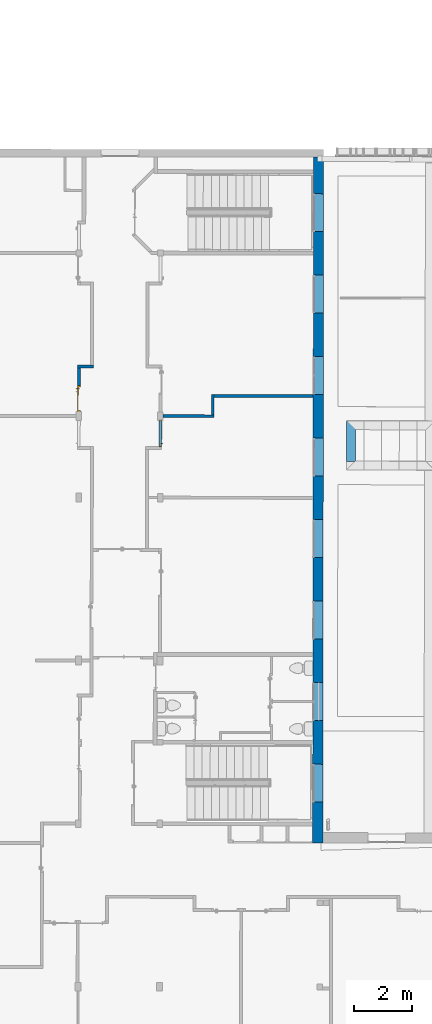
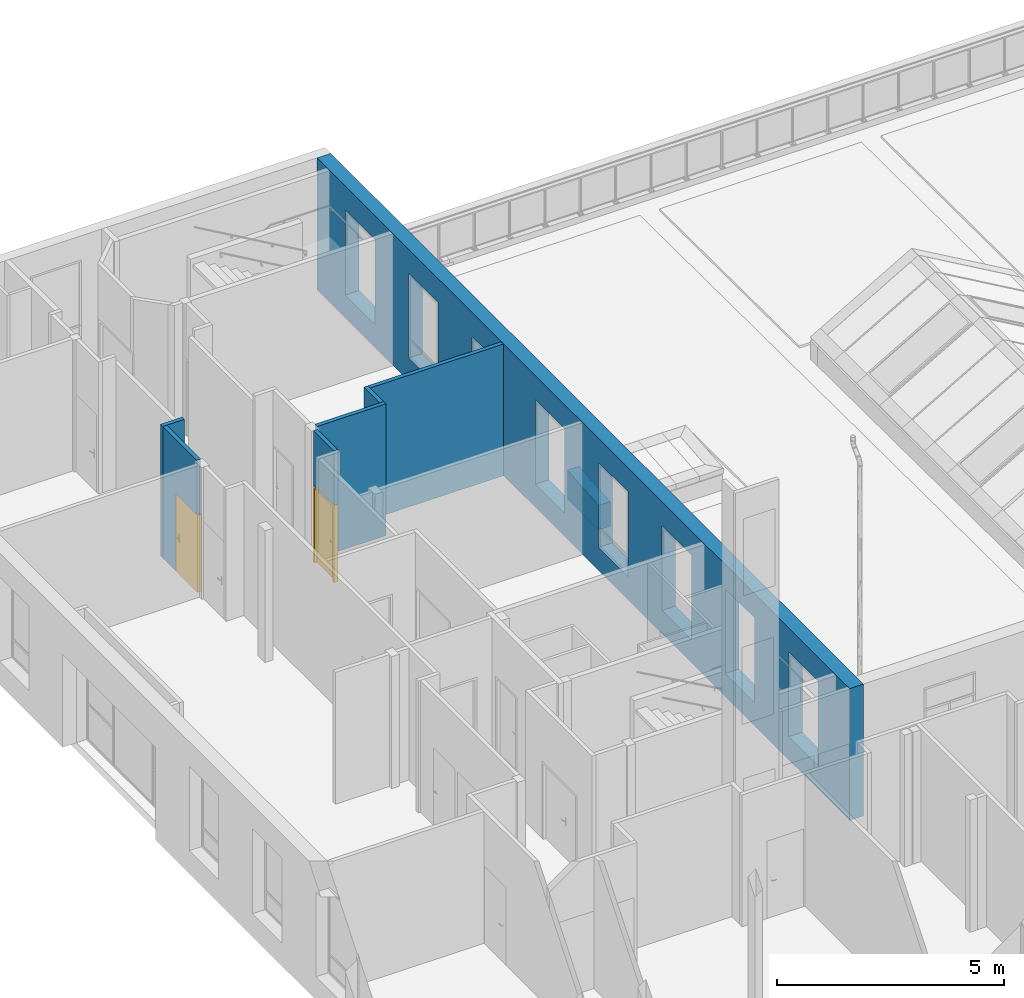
# One storey, part 64 of 101: 8 walls, 2 doors, 11 openings.
"""IFC2X3 building model written with IfcOpenShell, lengths in metres."""

from ifc_helpers import new_model, entity, si_unit, converted_unit, derived_unit, direction, frame, frame_2d, origin, place, context, subcontext, project, spatial, rectangle, extrude, clip, halfspace, faceted_brep, source, transform, mapped, material, material_list, layer, layer_set, layer_usage, type_object, type_shapes, element, fill, save


model = new_model("IFC2X3")

# Units and contexts
model_context = context("Model", 3, precision=1e-05, world=origin(), true_north=direction((6.123233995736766e-17, 1.0)))
body_context = subcontext(model_context, "Body", "Model", "MODEL_VIEW")
ifc_project = project(units=[si_unit("LENGTHUNIT", "METRE"), si_unit("AREAUNIT", "SQUARE_METRE"), converted_unit("PLANEANGLEUNIT", "DEGREE", entity("IfcPlaneAngleMeasure", 0.017453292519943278), si_unit("PLANEANGLEUNIT", "RADIAN"), dimensions=[0, 0, 0, 0, 0, 0, 0]), derived_unit("THERMALTRANSMITTANCEUNIT", [(si_unit("MASSUNIT", "GRAM", prefix="KILO"), 1), (si_unit("THERMODYNAMICTEMPERATUREUNIT", "KELVIN"), -1), (si_unit("TIMEUNIT", "SECOND"), -3)])], contexts=[model_context])

# Site, building, storey
site_placement = place(None, frame((1253.6752467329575, 2072.143113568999, 91.49999999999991), z_axis=(0.0, 0.0, 1.0), x_axis=(0.7237211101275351, 0.6900925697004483, 0.0)))
site = spatial("IfcSite", under=ifc_project, at=site_placement, Name="Surface", CompositionType="ELEMENT")
building_placement = place(site_placement, origin())
building = spatial("IfcBuilding", under=site, at=building_placement, CompositionType="ELEMENT")
storey_placement = place(building_placement, origin())
storey = spatial("IfcBuildingStorey", under=building, at=storey_placement, Name="0- Rdc", CompositionType="ELEMENT", Elevation=-5.764692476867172e-13)

# Wall, openings
ifc_material_1 = material(Name="OMD_Béton blanc")
ifc_layer_1 = layer(ifc_material_1, 0.35)
ifc_layer_set_1 = layer_set([ifc_layer_1], Name="Mur de base:MUR 35")
ifc_layer_usage_1 = layer_usage(ifc_layer_set_1, "AXIS2", "NEGATIVE", 0.175)
wall_type_1 = type_object("IfcWallType", Name="Mur de base:MUR 35", PredefinedType="STANDARD", material=ifc_layer_set_1)
wall_1_placement = place(storey_placement, frame((175.98297717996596, 17.99231955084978, 0.0), z_axis=(0.0, 0.0, 1.0), x_axis=(-0.6909838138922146, -0.7228702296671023, 0.0)))
wall_1 = element("IfcWallStandardCase", 1, at=wall_1_placement, inside=storey, type_object=wall_type_1, material=ifc_layer_usage_1, Name="Mur de base:MUR 35", ObjectType="Mur de base:MUR 35", context=body_context, shape_type="SweptSolid", body=[
    extrude(rectangle(XDim=23.55314000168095, YDim=0.35000000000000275, at=frame_2d((11.776570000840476, -7.077671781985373e-16), x_axis=(-1.0, 0.0))), origin(), (0.0, 0.0, 1.0), 3.5499999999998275),
])
opening_1_placement = place(wall_1_placement, frame((19.67990302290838, -0.014760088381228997, 0.6200000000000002)))
element("IfcOpeningElement", 2, at=opening_1_placement, cuts=wall_1, Name="Mur de base:MUR 35", ObjectType="Opening", context=body_context, shape_type="SweptSolid", body=[
    extrude(rectangle(XDim=2.2799999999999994, YDim=0.6496959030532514, at=frame_2d((0.0, -1.1102230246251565e-16), x_axis=(0.0, 1.0))), frame((-0.6519150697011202, -0.31263991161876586, 1.14), z_axis=(0.0, 1.0, 0.0), x_axis=(-1.0, 0.0, 0.0)), (0.0, 0.0, 1.0), 0.6547999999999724),
])
opening_2_placement = place(wall_1_placement, frame((19.030207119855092, -0.014760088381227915, 0.6200000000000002)))
element("IfcOpeningElement", 3, at=opening_2_placement, cuts=wall_1, Name="Mur de base:MUR 35", ObjectType="Opening", context=body_context, shape_type="SweptSolid", body=[
    extrude(rectangle(XDim=2.2799999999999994, YDim=0.6500000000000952, at=frame_2d((-1.1102230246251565e-16, -1.8207657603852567e-14), x_axis=(1.0, 0.0))), frame((-0.6520671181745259, -0.31263991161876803, 1.14), z_axis=(0.0, 1.0, 0.0), x_axis=(0.0, 0.0, 1.0)), (0.0, 0.0, 1.0), 0.6547999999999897),
])
opening_3_placement = place(wall_1_placement, frame((2.883866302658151, -0.014760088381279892, 0.6200000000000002)))
element("IfcOpeningElement", 4, at=opening_3_placement, cuts=wall_1, Name="Mur de base:MUR 35", ObjectType="Opening", context=body_context, shape_type="SweptSolid", body=[
    extrude(rectangle(XDim=2.2799999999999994, YDim=1.2996959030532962, at=frame_2d((0.0, -1.1102230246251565e-16), x_axis=(0.0, 1.0))), frame((-0.9769150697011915, -0.31263991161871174, 1.14), z_axis=(0.0, 1.0, 0.0), x_axis=(-1.0, 0.0, 0.0)), (0.0, 0.0, 1.0), 0.6547999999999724),
])
opening_4_placement = place(wall_1_placement, frame((5.679903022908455, -0.014760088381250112, 0.6200000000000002)))
element("IfcOpeningElement", 5, at=opening_4_placement, cuts=wall_1, Name="Mur de base:MUR 35", ObjectType="Opening", context=body_context, shape_type="SweptSolid", body=[
    extrude(rectangle(XDim=2.2799999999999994, YDim=1.299695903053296, at=frame_2d((1.5543122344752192e-15, -1.1102230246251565e-16), x_axis=(0.0, 1.0))), frame((-0.9769150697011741, -0.3126399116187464, 1.14), z_axis=(0.0, 1.0, 0.0), x_axis=(-1.0, 0.0, 0.0)), (0.0, 0.0, 1.0), 0.6547999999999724),
])
opening_5_placement = place(wall_1_placement, frame((8.479903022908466, -0.01476008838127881, 0.6200000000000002)))
element("IfcOpeningElement", 6, at=opening_5_placement, cuts=wall_1, Name="Mur de base:MUR 35", ObjectType="Opening", context=body_context, shape_type="SweptSolid", body=[
    extrude(rectangle(XDim=2.2799999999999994, YDim=1.2996959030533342, at=frame_2d((1.892930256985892e-14, -1.1102230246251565e-16), x_axis=(0.0, 1.0))), frame((-0.9769150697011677, -0.31263991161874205, 1.14), z_axis=(0.0, 1.0, 0.0), x_axis=(-1.0, 0.0, 0.0)), (0.0, 0.0, 1.0), 0.6547999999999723),
])
opening_6_placement = place(wall_1_placement, frame((11.279903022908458, -0.014760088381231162, 0.6200000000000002)))
element("IfcOpeningElement", 7, at=opening_6_placement, cuts=wall_1, Name="Mur de base:MUR 35", ObjectType="Opening", context=body_context, shape_type="SweptSolid", body=[
    extrude(rectangle(XDim=2.2799999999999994, YDim=1.2996959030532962, at=frame_2d((0.0, -1.1102230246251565e-16), x_axis=(0.0, 1.0))), frame((-0.9769150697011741, -0.3126399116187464, 1.14), z_axis=(0.0, 1.0, 0.0), x_axis=(-1.0, 0.0, 0.0)), (0.0, 0.0, 1.0), 0.6547999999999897),
])
opening_7_placement = place(wall_1_placement, frame((14.079903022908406, -0.0147600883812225, 0.6200000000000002)))
element("IfcOpeningElement", 8, at=opening_7_placement, cuts=wall_1, Name="Mur de base:MUR 35", ObjectType="Opening", context=body_context, shape_type="SweptSolid", body=[
    extrude(rectangle(XDim=2.2799999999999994, YDim=1.2996959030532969, at=frame_2d((3.885780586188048e-16, -1.1102230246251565e-16), x_axis=(0.0, 1.0))), frame((-0.9769150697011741, -0.3126399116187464, 1.14), z_axis=(0.0, 1.0, 0.0), x_axis=(-1.0, 0.0, 0.0)), (0.0, 0.0, 1.0), 0.6547999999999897),
])
opening_8_placement = place(wall_1_placement, frame((16.87990302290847, -0.014760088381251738, 0.6200000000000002)))
element("IfcOpeningElement", 9, at=opening_8_placement, cuts=wall_1, Name="Mur de base:MUR 35", ObjectType="Opening", context=body_context, shape_type="SweptSolid", body=[
    extrude(rectangle(XDim=2.2799999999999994, YDim=1.2996959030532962, at=frame_2d((0.0, -1.1102230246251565e-16), x_axis=(0.0, 1.0))), frame((-0.9769150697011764, -0.31263991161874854, 1.14), z_axis=(0.0, 1.0, 0.0), x_axis=(-1.0, 0.0, 0.0)), (0.0, 0.0, 1.0), 0.6547999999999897),
])
opening_9_placement = place(wall_1_placement, frame((22.479903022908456, -0.014760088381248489, 0.6200000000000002)))
element("IfcOpeningElement", 10, at=opening_9_placement, cuts=wall_1, Name="Mur de base:MUR 35", ObjectType="Opening", context=body_context, shape_type="SweptSolid", body=[
    extrude(rectangle(XDim=2.2799999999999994, YDim=1.2996959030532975, at=frame_2d((0.0, -1.1102230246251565e-16), x_axis=(0.0, 1.0))), frame((-0.9769150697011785, -0.3126399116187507, 1.14), z_axis=(0.0, 1.0, 0.0), x_axis=(-1.0, 0.0, 0.0)), (0.0, 0.0, 1.0), 0.6547999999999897),
])

# Wall, opening, door
ifc_layer_2 = layer(ifc_material_1, 0.1)
ifc_layer_set_2 = layer_set([ifc_layer_2], Name="Mur de base:MUR 10")
ifc_layer_usage_2 = layer_usage(ifc_layer_set_2, "AXIS2", "NEGATIVE", 0.05)
wall_type_2 = type_object("IfcWallType", Name="Mur de base:MUR 10", PredefinedType="STANDARD", material=ifc_layer_set_2)
wall_2_placement = place(storey_placement, frame((165.80583297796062, 15.196661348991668, 2.0850000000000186), z_axis=(0.0, 0.0, 1.0), x_axis=(-0.6909838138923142, -0.7228702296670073, 0.0)))
wall_2 = element("IfcWallStandardCase", 11, at=wall_2_placement, inside=storey, type_object=wall_type_2, material=ifc_layer_usage_2, Name="Mur de base:MUR 10", ObjectType="Mur de base:MUR 10", context=body_context, shape_type="SweptSolid", body=[
    extrude(rectangle(XDim=0.8999999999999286, YDim=0.10000000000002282, at=frame_2d((0.4499999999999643, 9.020562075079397e-16), x_axis=(-1.0, 0.0))), origin(), (0.0, 0.0, 1.0), 1.464999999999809),
])
opening_10_placement = place(wall_2_placement, frame((-0.02750000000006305, -0.04999999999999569, -2.0850000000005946)))
opening_10 = element("IfcOpeningElement", 12, at=opening_10_placement, cuts=wall_2, Name="OMD_Porte 1V tunnel:80x204:1", ObjectType="Opening", context=body_context, shape_type="SweptSolid", body=[
    extrude(rectangle(XDim=2.0850000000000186, YDim=0.9349999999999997, at=frame_2d((1.0425000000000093, 0.46749999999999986), x_axis=(1.0, 0.0))), frame((0.0, 0.0, 0.0), z_axis=(0.0, 1.0, 0.0), x_axis=(0.0, 0.0, 1.0)), (0.0, 0.0, 1.0), 0.09999999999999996),
])
ifc_material_2 = material(Name="Porte - Poignée")
ifc_material_3 = material(Name="OMD_Peinture mur")
ifc_material_4 = material(Name="OMD_Bois")
ifc_material_list = material_list([ifc_material_2, ifc_material_3, ifc_material_4])
door_style = type_object("IfcDoorStyle", Name="OMD_Porte 1V tunnel:80x204", ConstructionType="NOTDEFINED", OperationType="NOTDEFINED", ParameterTakesPrecedence=False, Sizeable=False, material=ifc_material_list)
shared_shape = source(origin(), body_context, "Body", "Brep", [
    faceted_brep([(0.21297470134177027, 0.03500000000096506, 1.0077804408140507), (0.20900000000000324, 0.03500000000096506, 1.0069999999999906), (0.208999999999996, 0.03500000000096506, 0.9929999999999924), (0.21297470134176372, 0.03500000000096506, 0.9922195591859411), (0.21702529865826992, 0.03500000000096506, 0.9922195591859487), (0.22100000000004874, 0.03500000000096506, 0.9930000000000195), (0.22100000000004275, 0.03500000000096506, 1.0069999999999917), (0.2170252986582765, 0.03500000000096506, 1.007780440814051), (0.22100000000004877, 0.05748520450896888, 0.9930000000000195), (0.22100000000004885, 0.057485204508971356, 1.0069999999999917), (0.21702529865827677, 0.059131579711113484, 1.007780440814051), (0.23083890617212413, 0.07294518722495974, 1.007780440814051), (0.2291610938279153, 0.07699578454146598, 1.0077804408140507), (0.21297470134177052, 0.060809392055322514, 1.0077804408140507), (0.3206847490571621, 0.0664673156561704, 1.0077804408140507), (0.32354895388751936, 0.06933152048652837, 1.0077804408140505), (0.31588468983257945, 0.07699578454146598, 1.0077804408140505), (0.31420687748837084, 0.07294518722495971, 1.0077804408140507), (0.20900000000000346, 0.06245576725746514, 1.0069999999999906), (0.20900000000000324, 0.06245576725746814, 0.9929999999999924), (0.21297470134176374, 0.06080939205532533, 0.9922195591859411), (0.22916109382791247, 0.07699578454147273, 0.9922195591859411), (0.23083890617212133, 0.07294518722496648, 0.9922195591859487), (0.21702529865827, 0.05913157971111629, 0.9922195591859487), (0.32354895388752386, 0.06933152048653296, 0.9922195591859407), (0.3206847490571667, 0.06646731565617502, 0.9922195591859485), (0.3142068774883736, 0.07294518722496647, 0.9922195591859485), (0.3158846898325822, 0.07699578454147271, 0.9922195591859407), (0.23248528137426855, 0.0689704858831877, 0.9930000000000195), (0.23248528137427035, 0.06897048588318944, 1.0069999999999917), (0.22751471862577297, 0.0809704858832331, 1.0069999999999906), (0.22751471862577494, 0.08097048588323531, 0.9929999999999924), (0.2725228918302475, 0.06897048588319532, 0.9930000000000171), (0.3125605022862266, 0.06897048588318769, 0.9930000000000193), (0.31256050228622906, 0.06897048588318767, 1.0069999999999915), (0.2725228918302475, 0.0689704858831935, 1.0069999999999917), (0.2725228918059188, 0.07512492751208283, 1.0078781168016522), (0.31753106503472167, 0.08097048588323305, 1.0069999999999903), (0.2776005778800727, 0.08097048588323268, 1.0069999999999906), (0.31753106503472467, 0.08097048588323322, 0.9929999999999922), (0.2674452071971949, 0.08097048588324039, 0.9929999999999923), (0.2725228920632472, 0.07512492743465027, 0.9921218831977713), (0.317874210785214, 0.06365677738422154, 0.9930000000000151), (0.32635949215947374, 0.07214205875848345, 0.99299999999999), (0.3263594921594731, 0.07214205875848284, 1.0069999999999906), (0.317874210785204, 0.06365677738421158, 1.0069999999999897)], [[[0, 1, 2, 3, 4, 5, 6, 7]], [[6, 5, 8, 9]], [[9, 10, 7, 6]], [[10, 11, 12, 13, 0, 7]], [[14, 15, 16, 17]], [[13, 18, 1, 0]], [[2, 1, 18, 19]], [[19, 20, 3, 2]], [[20, 21, 22, 23, 4, 3]], [[24, 25, 26, 27]], [[23, 8, 5, 4]], [[9, 8, 28, 29]], [[29, 11, 10, 9]], [[12, 30, 18, 13]], [[19, 18, 30, 31]], [[31, 21, 20, 19]], [[22, 28, 8, 23]], [[29, 28, 32, 33, 34, 35]], [[11, 35, 36]], [[16, 37, 38]], [[30, 12, 38]], [[38, 12, 36]], [[36, 35, 17]], [[17, 16, 36]], [[35, 11, 29]], [[34, 17, 35]], [[11, 36, 12]], [[38, 36, 16]], [[31, 30, 38, 37, 39, 40]], [[40, 41, 21]], [[41, 40, 27]], [[21, 31, 40]], [[39, 27, 40]], [[41, 32, 22]], [[22, 21, 41]], [[26, 32, 41]], [[28, 22, 32]], [[32, 26, 33]], [[26, 41, 27]], [[42, 25, 24, 43, 44, 15, 14, 45]], [[34, 33, 42, 45]], [[45, 14, 17, 34]], [[15, 44, 37, 16]], [[39, 37, 44, 43]], [[43, 24, 27, 39]], [[25, 42, 33, 26]]]),
    faceted_brep([(0.21297470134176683, -0.004999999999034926, 1.0077804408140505), (0.2170252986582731, -0.004999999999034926, 1.007780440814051), (0.2210000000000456, -0.004999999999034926, 1.006999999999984), (0.22100000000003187, -0.004999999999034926, 0.9930000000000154), (0.21702529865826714, -0.004999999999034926, 0.9922195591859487), (0.21297470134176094, -0.004999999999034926, 0.992219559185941), (0.20900000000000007, -0.004999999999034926, 0.992999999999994), (0.20900000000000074, -0.004999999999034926, 1.0069999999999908), (0.20900000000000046, -0.03265095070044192, 1.0069999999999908), (0.21297470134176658, -0.03100457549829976, 1.0077804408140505), (0.22902358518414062, -0.04705345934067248, 1.0077804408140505), (0.2307013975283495, -0.04300286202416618, 1.007780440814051), (0.21702529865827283, -0.02932676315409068, 1.007780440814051), (0.3235218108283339, -0.039389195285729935, 1.0077804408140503), (0.3206576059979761, -0.03652499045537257, 1.0077804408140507), (0.3141797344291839, -0.04300286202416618, 1.0077804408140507), (0.31585754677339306, -0.04705345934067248, 1.0077804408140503), (0.22100000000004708, -0.027680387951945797, 1.0069999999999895), (0.22100000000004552, -0.02768038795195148, 0.9930000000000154), (0.21702529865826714, -0.029326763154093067, 0.9922195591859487), (0.23070139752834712, -0.04300286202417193, 0.9922195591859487), (0.2290235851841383, -0.0470534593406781, 0.992219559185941), (0.21297470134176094, -0.031004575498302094, 0.992219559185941), (0.32065760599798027, -0.036524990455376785, 0.9922195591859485), (0.3235218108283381, -0.03938919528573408, 0.9922195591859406), (0.31585754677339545, -0.047053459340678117, 0.9922195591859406), (0.3141797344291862, -0.04300286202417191, 0.9922195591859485), (0.20899999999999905, -0.032650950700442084, 0.9929999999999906), (0.22737720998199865, -0.051028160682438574, 1.0069999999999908), (0.23234777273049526, -0.03902816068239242, 1.0069999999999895), (0.23234777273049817, -0.03902816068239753, 0.9930000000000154), (0.22737720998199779, -0.051028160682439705, 0.9929999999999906), (0.2673076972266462, -0.05102816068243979, 1.0069999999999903), (0.272440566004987, -0.0451828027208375, 1.0078781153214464), (0.3175039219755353, -0.05102816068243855, 1.0069999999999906), (0.27244056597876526, -0.039028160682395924, 1.0069999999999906), (0.3125333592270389, -0.03902816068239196, 1.0069999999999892), (0.31253335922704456, -0.03902816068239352, 0.9930000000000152), (0.27244056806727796, -0.03902816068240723, 0.9930000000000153), (0.27244056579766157, -0.04518280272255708, 0.9921218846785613), (0.3175039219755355, -0.051028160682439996, 0.9929999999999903), (0.27757344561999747, -0.051028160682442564, 0.9929999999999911), (0.3178470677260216, -0.03371445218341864, 1.0069999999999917), (0.3263323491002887, -0.04219973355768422, 1.0069999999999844), (0.3263323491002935, -0.04219973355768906, 0.9929999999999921), (0.31784706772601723, -0.033714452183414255, 0.9930000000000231)], [[[0, 1, 2, 3, 4, 5, 6, 7]], [[8, 9, 0, 7]], [[9, 10, 11, 12, 1, 0]], [[13, 14, 15, 16]], [[12, 17, 2, 1]], [[3, 2, 17, 18]], [[18, 19, 4, 3]], [[19, 20, 21, 22, 5, 4]], [[23, 24, 25, 26]], [[22, 27, 6, 5]], [[7, 6, 27, 8]], [[28, 10, 9, 8]], [[11, 29, 17, 12]], [[18, 17, 29, 30]], [[30, 20, 19, 18]], [[21, 31, 27, 22]], [[8, 27, 31, 28]], [[32, 33, 10]], [[33, 32, 16]], [[10, 28, 32]], [[34, 16, 32]], [[33, 35, 11]], [[11, 10, 33]], [[15, 35, 33]], [[29, 11, 35]], [[35, 15, 36]], [[15, 33, 16]], [[30, 29, 35, 36, 37, 38]], [[20, 38, 39]], [[25, 40, 41]], [[31, 21, 41]], [[41, 21, 39]], [[39, 38, 26]], [[26, 25, 39]], [[38, 20, 30]], [[37, 26, 38]], [[20, 39, 21]], [[41, 39, 25]], [[28, 31, 41, 40, 34, 32]], [[42, 14, 13, 43, 44, 24, 23, 45]], [[43, 13, 16, 34]], [[14, 42, 36, 15]], [[37, 36, 42, 45]], [[45, 23, 26, 37]], [[24, 44, 40, 25]], [[34, 40, 44, 43]]]),
    faceted_brep([(0.22535276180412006, 0.030000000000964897, 0.8660039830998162), (0.2350000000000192, 0.030000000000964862, 0.8700000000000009), (0.2350000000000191, 0.030000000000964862, 1.0800000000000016), (0.2253527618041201, 0.030000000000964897, 1.0839960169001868), (0.21500000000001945, 0.030000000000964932, 1.0853589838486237), (0.20464723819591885, 0.03000000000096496, 1.0839960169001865), (0.19500000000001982, 0.030000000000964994, 1.0800000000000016), (0.19500000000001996, 0.030000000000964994, 0.8700000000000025), (0.20464723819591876, 0.03000000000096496, 0.866003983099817), (0.21500000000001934, 0.030000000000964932, 0.8646410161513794), (0.22535276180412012, 0.0350000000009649, 1.0839960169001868), (0.2350000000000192, 0.03500000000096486, 1.0800000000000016), (0.23500000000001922, 0.03500000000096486, 0.8700000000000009), (0.22535276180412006, 0.0350000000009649, 0.8660039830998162), (0.21500000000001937, 0.03500000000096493, 0.8646410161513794), (0.20464723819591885, 0.03500000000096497, 0.866003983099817), (0.19500000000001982, 0.035000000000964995, 0.8700000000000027), (0.19500000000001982, 0.035000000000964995, 1.0800000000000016), (0.20464723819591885, 0.03500000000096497, 1.0839960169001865), (0.21500000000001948, 0.03500000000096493, 1.0853589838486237)], [[[0, 1, 2, 3, 4, 5, 6, 7, 8, 9]], [[10, 11, 12, 13, 14, 15, 16, 17, 18, 19]], [[11, 10, 3, 2]], [[3, 10, 19, 4]], [[19, 18, 5, 4]], [[18, 17, 6, 5]], [[7, 6, 17, 16]], [[16, 15, 8, 7]], [[8, 15, 14, 9]], [[14, 13, 0, 9]], [[13, 12, 1, 0]], [[2, 1, 12, 11]]]),
    faceted_brep([(0.22535276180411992, -0.004999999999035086, 0.8660039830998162), (0.2350000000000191, -0.004999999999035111, 0.8700000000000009), (0.23500000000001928, -0.004999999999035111, 1.0800000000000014), (0.22535276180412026, -0.004999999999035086, 1.0839960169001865), (0.2150000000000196, -0.004999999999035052, 1.0853589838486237), (0.20464723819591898, -0.0049999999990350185, 1.0839960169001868), (0.19500000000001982, -0.004999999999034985, 1.0800000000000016), (0.19500000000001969, -0.004999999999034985, 0.8700000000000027), (0.20464723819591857, -0.0049999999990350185, 0.8660039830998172), (0.21500000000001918, -0.004999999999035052, 0.8646410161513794), (0.22535276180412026, 0.0, 1.0839960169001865), (0.2350000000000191, 0.0, 1.0800000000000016), (0.2350000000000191, 0.0, 0.8700000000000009), (0.22535276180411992, 0.0, 0.8660039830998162), (0.21500000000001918, 0.0, 0.8646410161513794), (0.20464723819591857, 0.0, 0.8660039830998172), (0.19500000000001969, 0.0, 0.8700000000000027), (0.19500000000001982, 0.0, 1.0800000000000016), (0.20464723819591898, 0.0, 1.0839960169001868), (0.2150000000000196, 0.0, 1.0853589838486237)], [[[0, 1, 2, 3, 4, 5, 6, 7, 8, 9]], [[10, 11, 12, 13, 14, 15, 16, 17, 18, 19]], [[16, 15, 8, 7]], [[8, 15, 14, 9]], [[14, 13, 0, 9]], [[13, 12, 1, 0]], [[2, 1, 12, 11]], [[11, 10, 3, 2]], [[3, 10, 19, 4]], [[19, 18, 5, 4]], [[18, 17, 6, 5]], [[7, 6, 17, 16]]]),
    faceted_brep([(0.14500000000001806, 0.030000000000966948, 0.0), (0.9900000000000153, 0.030000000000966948, 0.0), (0.9900000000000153, 0.0, 0.0), (0.14500000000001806, 0.0, 0.0), (0.14500000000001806, 0.030000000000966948, 2.04), (0.14500000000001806, 0.0, 2.04), (0.9900000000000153, 0.0, 2.04), (0.9900000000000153, 0.030000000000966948, 2.04)], [[[0, 1, 2, 3]], [[4, 0, 3, 5]], [[5, 3, 2, 6]], [[6, 2, 1, 7]], [[7, 1, 0, 4]], [[4, 5, 6, 7]]]),
    faceted_brep([(0.10000000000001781, 0.0, 0.0), (0.10000000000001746, 0.10000000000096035, 0.0), (0.16000000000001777, 0.10000000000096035, 0.0), (0.16000000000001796, 0.03000000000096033, 0.0), (0.145000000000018, 0.03000000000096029, 0.0), (0.14500000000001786, 0.0, 0.0), (0.145000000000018, 0.0, 2.04), (0.9900000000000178, 0.0, 2.0400000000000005), (0.9900000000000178, 0.0, 0.0), (1.0350000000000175, 0.0, 0.0), (1.0350000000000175, 0.0, 2.085), (0.10000000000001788, 0.0, 2.085), (0.14500000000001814, 0.030000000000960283, 2.04), (0.16000000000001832, 0.03000000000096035, 2.0249999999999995), (0.9750000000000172, 0.03000000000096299, 2.0249999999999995), (0.9750000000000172, 0.03000000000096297, 0.0), (0.9900000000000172, 0.03000000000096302, 0.0), (0.9900000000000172, 0.03000000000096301, 2.0399999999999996), (0.16000000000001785, 0.10000000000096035, 2.0249999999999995), (0.1000000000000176, 0.10000000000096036, 2.085), (1.0350000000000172, 0.10000000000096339, 2.085), (1.0350000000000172, 0.10000000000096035, 0.0), (0.9750000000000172, 0.10000000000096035, 0.0), (0.9750000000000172, 0.10000000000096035, 2.025)], [[[0, 1, 2, 3, 4, 5]], [[5, 6, 7, 8, 9, 10, 11, 0]], [[4, 12, 6, 5]], [[3, 13, 14, 15, 16, 17, 12, 4]], [[2, 18, 13, 3]], [[1, 19, 20, 21, 22, 23, 18, 2]], [[0, 11, 19, 1]], [[10, 9, 21, 20]], [[9, 8, 16, 15, 22, 21]], [[17, 16, 8, 7]], [[23, 22, 15, 14]], [[12, 17, 7, 6]], [[18, 23, 14, 13]], [[11, 10, 20, 19]]]),
])
type_shapes(door_style, [shared_shape])
door_1_placement = place(opening_10_placement, frame((1.0350000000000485, 0.1000000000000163, 0.0), z_axis=(0.0, 0.0, 1.0), x_axis=(-1.0, 0.0, 0.0)))
door_1 = element("IfcDoor", 13, at=door_1_placement, inside=storey, type_object=door_style, material=ifc_material_list, Name="OMD_Porte 1V tunnel:80x204", ObjectType="OMD_Porte 1V tunnel:80x204", OverallHeight=2.0850000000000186, OverallWidth=0.9350000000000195, context=body_context, shape_type="MappedRepresentation", body=[
    mapped(shared_shape, transform((0.0, 0.0, 0.0), scale=1.0)),
])
fill(opening_10, door_1)

# Wall
ifc_layer_usage_3 = layer_usage(ifc_layer_set_2, "AXIS2", "NEGATIVE", 0.05)
wall_3_placement = place(storey_placement, frame((165.42155150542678, 18.12323404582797, 0.0), z_axis=(0.0, 0.0, 1.0), x_axis=(-0.7228702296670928, 0.6909838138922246, 0.0)))
element("IfcWallStandardCase", 14, at=wall_3_placement, inside=storey, type_object=wall_type_2, material=ifc_layer_usage_3, Name="Mur de base:MUR 10", ObjectType="Mur de base:MUR 10", context=body_context, shape_type="SweptSolid", body=[
    extrude(rectangle(XDim=0.5500000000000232, YDim=0.10000000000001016, at=frame_2d((0.2750000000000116, -2.005340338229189e-15), x_axis=(-1.0, 0.0))), origin(), (0.0, 0.0, 1.0), 3.5499999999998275),
])

# Wall, opening, door
ifc_layer_usage_4 = layer_usage(ifc_layer_set_2, "AXIS2", "NEGATIVE", 0.05)
wall_4_placement = place(storey_placement, frame((165.02556719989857, 18.43258244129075, 0.0), z_axis=(0.0, 0.0, 1.0), x_axis=(-0.6909838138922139, -0.7228702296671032, 0.0)))
wall_4 = element("IfcWallStandardCase", 15, at=wall_4_placement, inside=storey, type_object=wall_type_2, material=ifc_layer_usage_4, Name="Mur de base:MUR 10", ObjectType="Mur de base:MUR 10", context=body_context, shape_type="SweptSolid", body=[
    extrude(rectangle(XDim=1.5000000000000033, YDim=0.10000000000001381, at=frame_2d((0.7500000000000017, 3.722716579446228e-15), x_axis=(-1.0, 0.0))), origin(), (0.0, 0.0, 1.0), 3.5499999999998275),
])
opening_11_placement = place(wall_4_placement, frame((1.5274999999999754, 0.05000000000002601, 0.0)))
opening_11 = element("IfcOpeningElement", 16, at=opening_11_placement, cuts=wall_4, Name="OMD_Porte 1V tunnel:80x204:1", ObjectType="Opening", context=body_context, shape_type="SweptSolid", body=[
    extrude(rectangle(XDim=2.0850000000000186, YDim=0.9349999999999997, at=frame_2d((1.0425000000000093, 0.46749999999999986), x_axis=(1.0, 0.0))), frame((0.0, 0.0, 0.0), z_axis=(0.0, -1.0, 0.0), x_axis=(0.0, 0.0, 1.0)), (0.0, 0.0, 1.0), 0.09999999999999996),
])
door_2_placement = place(opening_11_placement, frame((-1.034999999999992, -0.10000000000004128, 0.0)))
door_2 = element("IfcDoor", 17, at=door_2_placement, inside=storey, type_object=door_style, material=ifc_material_list, Name="OMD_Porte 1V tunnel:80x204", ObjectType="OMD_Porte 1V tunnel:80x204", OverallHeight=2.0850000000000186, OverallWidth=0.9349999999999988, context=body_context, shape_type="MappedRepresentation", body=[
    mapped(shared_shape, transform((0.0, 0.0, 0.0), scale=1.0)),
])
fill(opening_11, door_2)

# Walls
ifc_layer_usage_5 = layer_usage(ifc_layer_set_2, "AXIS2", "NEGATIVE", 0.05)
wall_5_placement = place(storey_placement, frame((167.24679047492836, 14.026771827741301, 0.0), z_axis=(0.0, 0.0, 1.0), x_axis=(-0.7228702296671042, 0.6909838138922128, 0.0)))
element("IfcWallStandardCase", 18, at=wall_5_placement, inside=storey, type_object=wall_type_2, material=ifc_layer_usage_5, Name="Mur de base:MUR 10", ObjectType="Mur de base:MUR 10", context=body_context, shape_type="SweptSolid", body=[
    extrude(rectangle(XDim=1.749999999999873, YDim=0.10000000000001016, at=frame_2d((0.8749999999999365, -2.123301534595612e-15), x_axis=(-1.0, 0.0))), origin(), (0.0, 0.0, 1.0), 3.5499999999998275),
])
ifc_layer_usage_6 = layer_usage(ifc_layer_set_2, "AXIS2", "NEGATIVE", 0.05)
wall_6_placement = place(storey_placement, frame((167.72888482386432, 14.603473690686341, 0.0), z_axis=(0.0, 0.0, 1.0), x_axis=(-0.6909838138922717, -0.7228702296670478, 0.0)))
element("IfcWallStandardCase", 19, at=wall_6_placement, inside=storey, type_object=wall_type_2, material=ifc_layer_usage_6, Name="Mur de base:MUR 10", ObjectType="Mur de base:MUR 10", context=body_context, shape_type="SweptSolid", body=[
    extrude(rectangle(XDim=0.7000000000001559, YDim=0.10000000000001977, at=frame_2d((0.35000000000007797, 1.3114509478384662e-15), x_axis=(-1.0, 0.0))), origin(), (0.0, 0.0, 1.0), 3.5499999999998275),
])
ifc_layer_usage_7 = layer_usage(ifc_layer_set_2, "AXIS2", "NEGATIVE", 0.05)
wall_7_placement = place(storey_placement, frame((170.18100922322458, 12.190345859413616, 0.0), z_axis=(0.0, 0.0, 1.0), x_axis=(-0.7228702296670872, 0.6909838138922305, 0.0)))
element("IfcWallStandardCase", 20, at=wall_7_placement, inside=storey, type_object=wall_type_2, material=ifc_layer_usage_7, Name="Mur de base:MUR 10", ObjectType="Mur de base:MUR 10", context=body_context, shape_type="SweptSolid", body=[
    extrude(rectangle(XDim=3.3900000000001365, YDim=0.10000000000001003, at=frame_2d((1.6950000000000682, -2.3939183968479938e-15), x_axis=(-1.0, 0.0))), origin(), (0.0, 0.0, 1.0), 3.5499999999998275),
])
ifc_material_5 = material(Name="Maçonnerie - Isolant")
ifc_layer_3 = layer(ifc_material_5, 0.1)
ifc_material_6 = material(Name="Béton - Béton coulé sur place")
ifc_layer_4 = layer(ifc_material_6, 0.2)
ifc_layer_set_3 = layer_set([ifc_layer_3, ifc_layer_4], Name="Mur de base:BA 20 + isol")
ifc_layer_usage_8 = layer_usage(ifc_layer_set_3, "AXIS2", "POSITIVE", -0.15000000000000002)
wall_type_3 = type_object("IfcWallType", Name="Mur de base:BA 20 + isol", PredefinedType="STANDARD", material=ifc_layer_set_3)
wall_8_placement = place(storey_placement, frame((170.52795461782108, 10.657453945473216, -0.53), z_axis=(0.0, 0.0, 1.0), x_axis=(-0.6909838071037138, -0.7228702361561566, 0.0)))
element("IfcWallStandardCase", 21, at=wall_8_placement, inside=storey, type_object=wall_type_3, material=ifc_layer_usage_8, Name="Mur de base:BA 20 + isol", ObjectType="Mur de base:BA 20 + isol", context=body_context, shape_type="Clipping", body=[
    clip(extrude(rectangle(XDim=1.3790533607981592, YDim=0.30000000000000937, at=frame_2d((0.6895266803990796, -7.91033905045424e-16), x_axis=(-1.0, 0.0))), origin(), (0.0, 0.0, 1.0), 0.7802882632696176), halfspace(frame((0.0, -0.15000000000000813, 0.7802882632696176), z_axis=(0.08715574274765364, 0.0, 0.996194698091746), x_axis=(0.0, 1.0, 0.0)), False)),
])

save(model, "model.ifc")
